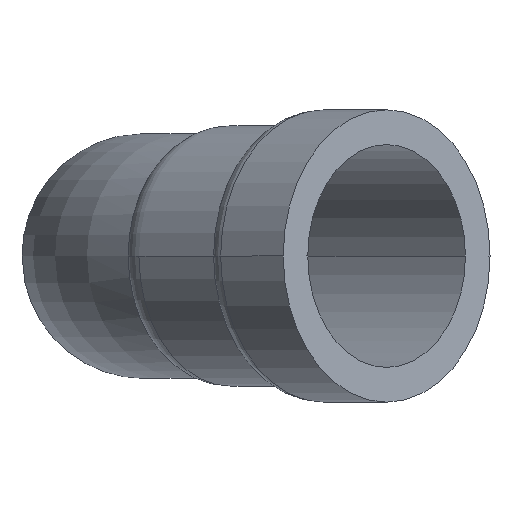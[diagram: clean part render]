
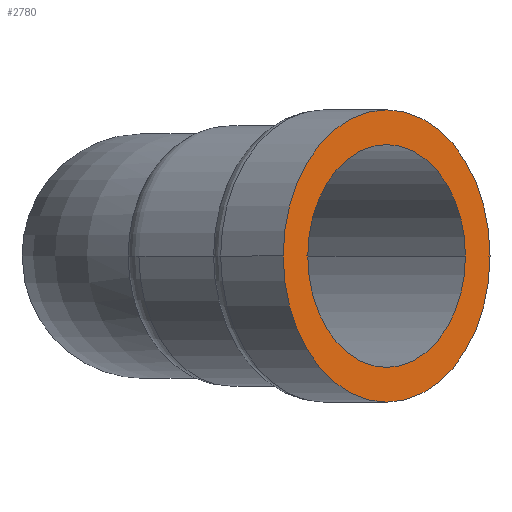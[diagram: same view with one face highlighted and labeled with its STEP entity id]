
A CAD part, left-side view. The second image highlights one B-rep face of the part: STEP entity #2780.
In plain terms, the highlighted planar face has unit normal (-0.707, -0.707, 0).
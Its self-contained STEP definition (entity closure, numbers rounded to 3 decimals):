
#2300=CARTESIAN_POINT('',(88.696,-11.354,
0.));
#2310=VERTEX_POINT('',#2300);
#2340=CARTESIAN_POINT('',(76.463,0.879,
0.));
#2350=DIRECTION('',(-0.707,-0.707,
0.));
#2360=DIRECTION('',(0.707,-0.707,
0.));
#2370=AXIS2_PLACEMENT_3D('',#2340,#2350,#2360);
#2380=CIRCLE('',#2370,17.3);
#2390=CARTESIAN_POINT('',(64.23,13.112,
0.));
#2400=VERTEX_POINT('',#2390);
#2410=EDGE_CURVE('',#2400,#2310,#2380,.T.);
#2530=CARTESIAN_POINT('',(61.614,15.729,
0.));
#2540=DIRECTION('',(-0.707,-0.707,
0.));
#2550=DIRECTION('',(-0.707,0.707,
0.));
#2560=AXIS2_PLACEMENT_3D('',#2530,#2540,#2550);
#2570=PLANE('',#2560);
#2580=EDGE_CURVE('',#2310,#2400,#2380,.T.);
#2590=ORIENTED_EDGE('',*,*,#2580,.F.);
#2600=ORIENTED_EDGE('',*,*,#2410,.F.);
#2610=EDGE_LOOP('',(#2600,#2590));
#2620=FACE_BOUND('',#2610,.T.);
#2630=CARTESIAN_POINT('',(76.463,0.879,
0.));
#2640=DIRECTION('',(-0.707,-0.707,
0.));
#2650=DIRECTION('',(0.707,-0.707,
0.));
#2660=AXIS2_PLACEMENT_3D('',#2630,#2640,#2650);
#2670=CIRCLE('',#2660,22.7);
#2680=CARTESIAN_POINT('',(92.514,-15.172,
0.));
#2690=VERTEX_POINT('',#2680);
#2700=CARTESIAN_POINT('',(60.411,16.931,
0.));
#2710=VERTEX_POINT('',#2700);
#2720=EDGE_CURVE('',#2690,#2710,#2670,.T.);
#2730=ORIENTED_EDGE('',*,*,#2720,.T.);
#2740=EDGE_CURVE('',#2710,#2690,#2670,.T.);
#2750=ORIENTED_EDGE('',*,*,#2740,.T.);
#2760=EDGE_LOOP('',(#2750,#2730));
#2770=FACE_OUTER_BOUND('',#2760,.T.);
#2780=ADVANCED_FACE('',(#2620,#2770),#2570,.T.);
